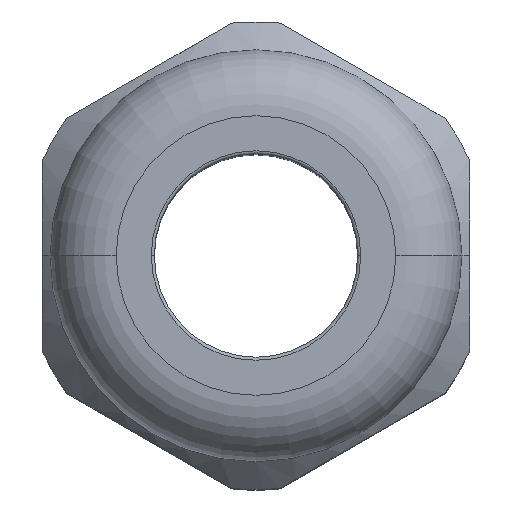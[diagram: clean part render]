
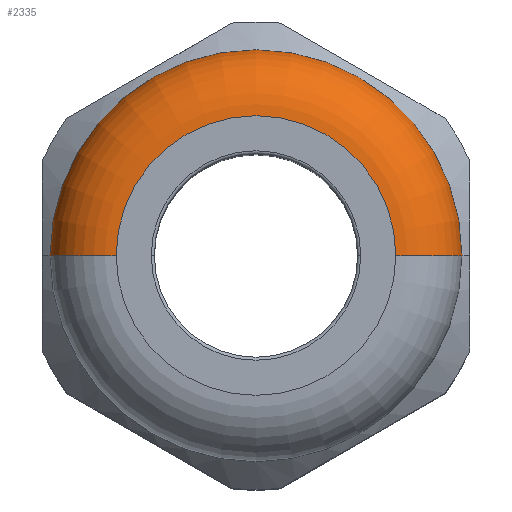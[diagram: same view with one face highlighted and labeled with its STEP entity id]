
A CAD part, top view. The second image highlights one B-rep face of the part: STEP entity #2335.
In plain terms, the highlighted toroidal (fillet/blend) face has major radius 13.75 mm and minor radius 6.5 mm.
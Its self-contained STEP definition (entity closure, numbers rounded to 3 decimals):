
#162 = DIRECTION ( 'NONE',  ( -1., 0., 0. ) ) ;
#163 = DIRECTION ( 'NONE',  ( 0., 0., -1. ) ) ;
#164 = CARTESIAN_POINT ( 'NONE',  ( 0., 0., 57. ) ) ;
#165 = AXIS2_PLACEMENT_3D ( 'NONE', #164, #163, #162 ) ;
#166 = CIRCLE ( 'NONE', #165, 13.75 ) ;
#168 = CARTESIAN_POINT ( 'NONE',  ( 20.25, 0., 50.5 ) ) ;
#205 = DIRECTION ( 'NONE',  ( -1., 0., 0. ) ) ;
#206 = DIRECTION ( 'NONE',  ( 0., 0., -1. ) ) ;
#207 = AXIS2_PLACEMENT_3D ( 'NONE', #210, #206, #205 ) ;
#208 = TOROIDAL_SURFACE ( 'NONE', #207, 13.75, 6.5 ) ;
#210 = CARTESIAN_POINT ( 'NONE',  ( 0., 0., 50.5 ) ) ;
#211 = FACE_OUTER_BOUND ( 'NONE', #2370, .T. ) ;
#212 = CARTESIAN_POINT ( 'NONE',  ( -20.25, 0., 50.5 ) ) ;
#213 = DIRECTION ( 'NONE',  ( -1., 0., 0. ) ) ;
#214 = DIRECTION ( 'NONE',  ( 0., 0., -1. ) ) ;
#215 = CARTESIAN_POINT ( 'NONE',  ( 0., 0., 50.5 ) ) ;
#216 = AXIS2_PLACEMENT_3D ( 'NONE', #215, #214, #213 ) ;
#217 = CIRCLE ( 'NONE', #216, 20.25 ) ;
#219 = CARTESIAN_POINT ( 'NONE',  ( 13.75, 0., 50.5 ) ) ;
#220 = CARTESIAN_POINT ( 'NONE',  ( -13.75, 0., 57. ) ) ;
#251 = CARTESIAN_POINT ( 'NONE',  ( 13.75, 0., 57. ) ) ;
#273 = DIRECTION ( 'NONE',  ( 0., 0., -1. ) ) ;
#274 = DIRECTION ( 'NONE',  ( 0., -1., 0. ) ) ;
#275 = CARTESIAN_POINT ( 'NONE',  ( -13.75, 0., 50.5 ) ) ;
#276 = AXIS2_PLACEMENT_3D ( 'NONE', #275, #274, #273 ) ;
#277 = CIRCLE ( 'NONE', #276, 6.5 ) ;
#278 = DIRECTION ( 'NONE',  ( -1., 0., 0. ) ) ;
#279 = DIRECTION ( 'NONE',  ( 0., 1., 0. ) ) ;
#280 = AXIS2_PLACEMENT_3D ( 'NONE', #219, #279, #278 ) ;
#281 = CIRCLE ( 'NONE', #280, 6.5 ) ;
#2326 = VERTEX_POINT ( 'NONE', #168 ) ;
#2327 = ORIENTED_EDGE ( 'NONE', *, *, #2329, .T. ) ;
#2329 = EDGE_CURVE ( 'NONE', #2363, #2342, #166, .T. ) ;
#2333 = EDGE_CURVE ( 'NONE', #2334, #2326, #217, .T. ) ;
#2334 = VERTEX_POINT ( 'NONE', #212 ) ;
#2335 = ADVANCED_FACE ( 'NONE', ( #211 ), #208, .T. ) ;
#2342 = VERTEX_POINT ( 'NONE', #251 ) ;
#2363 = VERTEX_POINT ( 'NONE', #220 ) ;
#2364 = ORIENTED_EDGE ( 'NONE', *, *, #2365, .T. ) ;
#2365 = EDGE_CURVE ( 'NONE', #2342, #2326, #281, .T. ) ;
#2366 = ORIENTED_EDGE ( 'NONE', *, *, #2367, .F. ) ;
#2367 = EDGE_CURVE ( 'NONE', #2363, #2334, #277, .T. ) ;
#2369 = ORIENTED_EDGE ( 'NONE', *, *, #2333, .F. ) ;
#2370 = EDGE_LOOP ( 'NONE', ( #2327, #2364, #2369, #2366 ) ) ;
